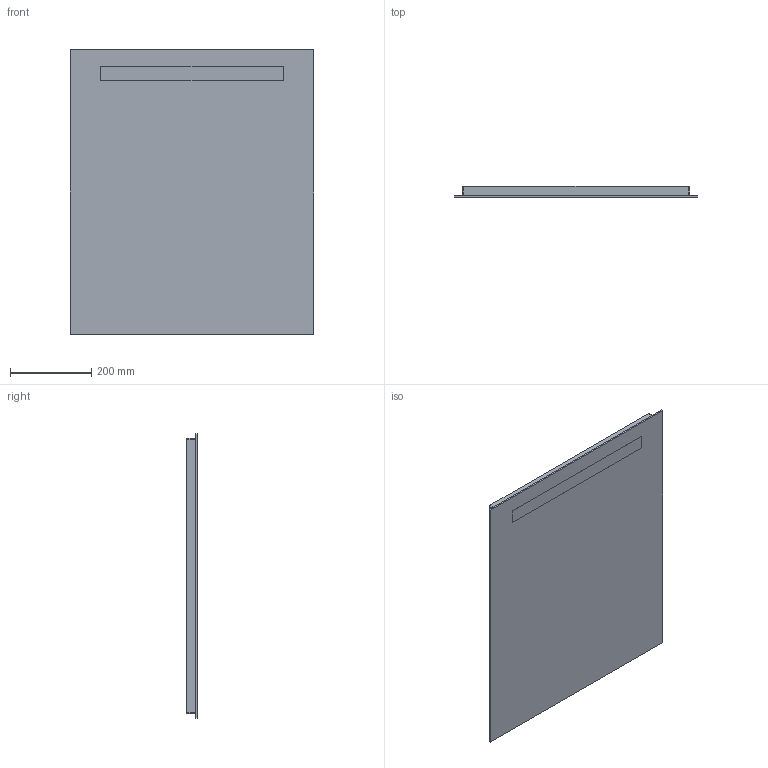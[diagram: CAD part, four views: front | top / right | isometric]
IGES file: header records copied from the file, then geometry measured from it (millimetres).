
Global section: file name: 502805; native system: Autodesk Inventor 2021; preprocessor: unknown; author: JANAN; date: 20221202.150949; units: millimetre
Bounding box: 600 x 26 x 700 mm (x, y, z)
Volume: 10053843.9 mm3; surface area: 1667533.9 mm2
Topology: 2 solids, 2 shells, 29 faces, 68 edges, 48 vertices
Faces by surface type: bspline 29
